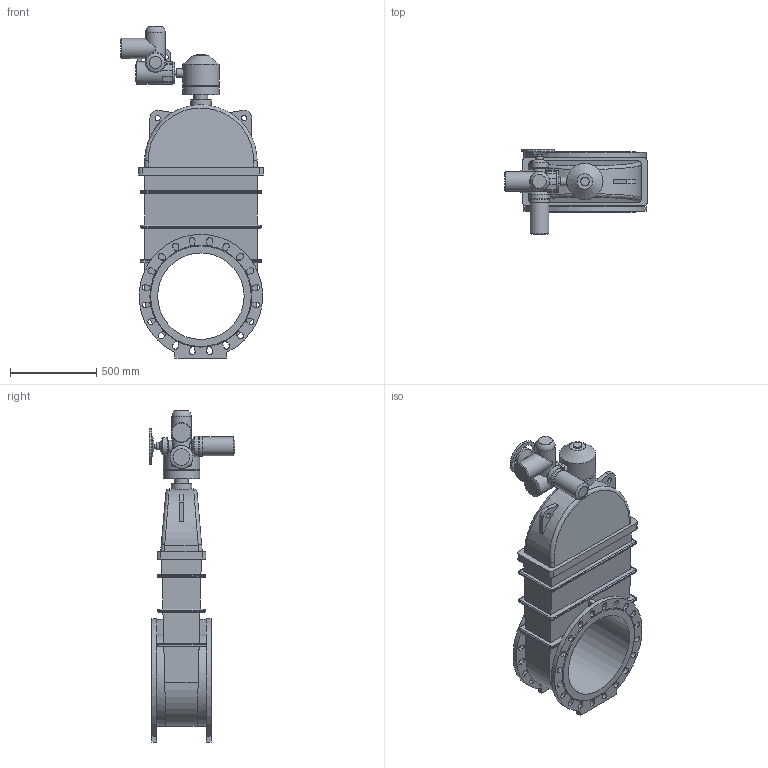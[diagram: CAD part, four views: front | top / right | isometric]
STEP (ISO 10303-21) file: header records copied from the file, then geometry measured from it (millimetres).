
FILE_DESCRIPTION(('STEP AP203'), '1');
FILE_NAME('Çàäâèæêà 47GV.Z DN500 PN10_PN16 + ðåäóêòîð+ÌÒ903.À10', '', ('UNSPECIFIED'), ('UNSPECIFIED'), 'ASCON STEP Converter 1.6', 'ASCON Math Kernel', '');
FILE_SCHEMA(('CONFIG_CONTROL_DESIGN'));
Length unit declared in the file: millimetre
Bounding box: 823 x 494 x 1919.5 mm (x, y, z)
Volume: 168580313.5 mm3; surface area: 4656215.1 mm2
Topology: 1 solids, 1 shells, 438 faces, 1130 edges, 731 vertices
Faces by surface type: plane 213, cylinder 188, bspline 24, cone 12, torus 1
Full cylindrical faces by diameter (mm): 8.5 x4, 12 x4, 17.5 x4, 22 x4, 24 x1, 30 x3, 42 x1, 50 x2, 66 x1, 72 x1, 80 x2, 100 x1, 108 x1, 114 x1, 115 x1, 116 x1, 119 x1, 120 x1, 125 x1, 132 x1, 190 x1, 210 x2, 500 x1
Entity records: 20469 total; most frequent: CARTESIAN_POINT 6283, DIRECTION 2164, ORIENTED_EDGE 2152, EDGE_CURVE 1076, AXIS2_PLACEMENT_3D 770, VERTEX_POINT 731, LINE 624, VECTOR 624
